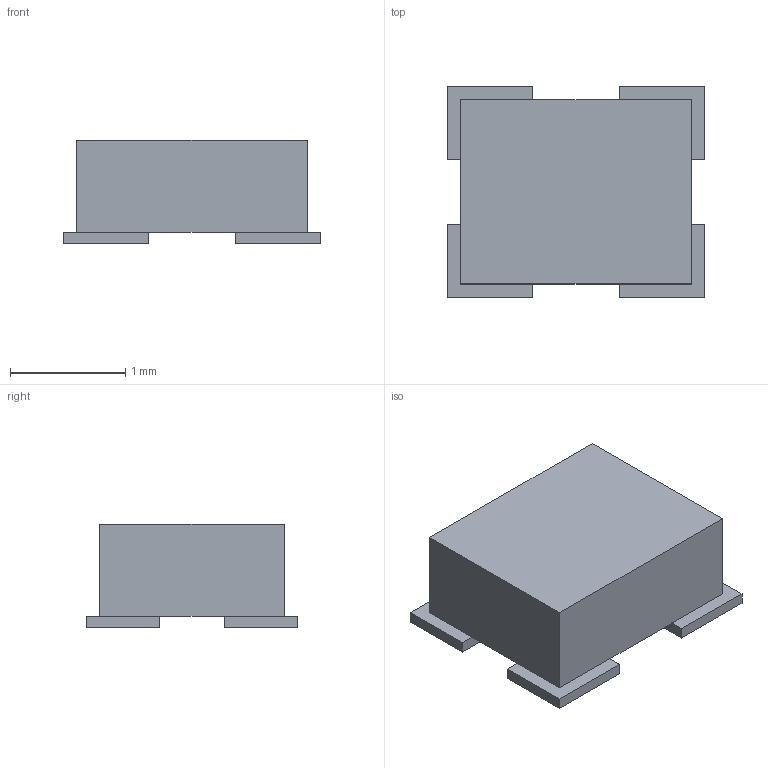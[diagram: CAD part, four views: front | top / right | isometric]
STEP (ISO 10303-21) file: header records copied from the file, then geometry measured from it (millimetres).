
FILE_DESCRIPTION(('FreeCAD Model'),'2;1');
FILE_NAME('/var/www/3D/0T/885704.1.2.stp','2022-12-23T00:15:20',( 'Author'),(''),'Open CASCADE STEP processor 6.9','FreeCAD','Unknown' );
FILE_SCHEMA(('AUTOMOTIVE_DESIGN { 1 0 10303 214 1 1 1 1 }'));
Length unit declared in the file: millimetre
Products named in the file (3): ASSEMBLY; Body; Pins
Assembly tree (2 placements, depth 2):
  ASSEMBLY
    Body
    Pins
Bounding box: 2.24 x 1.84 x 0.9 mm (x, y, z)
Volume: 2.7 mm3; surface area: 17.1 mm2
Topology: 5 solids, 5 shells, 30 faces, 60 edges, 40 vertices
Faces by surface type: plane 30
Entity records: 1631 total; most frequent: CARTESIAN_POINT 253, DIRECTION 246, LINE 180, VECTOR 180, ORIENTED_EDGE 120, PCURVE 120, DEFINITIONAL_REPRESENTATION 120, EDGE_CURVE 60
